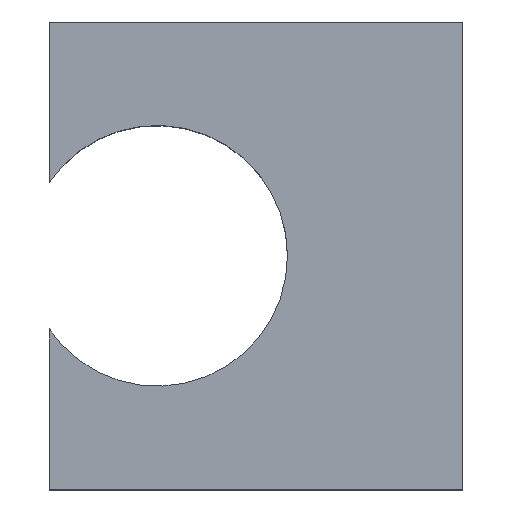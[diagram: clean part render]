
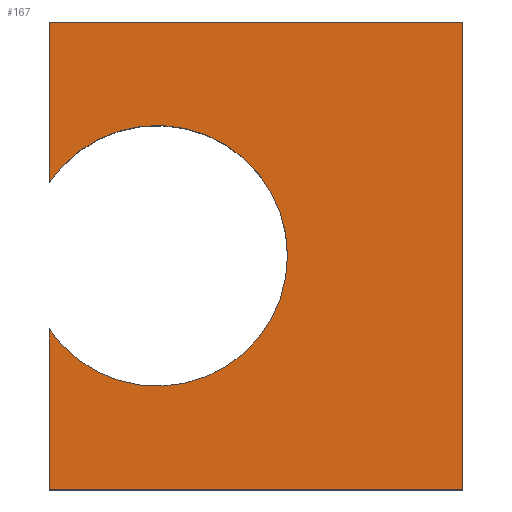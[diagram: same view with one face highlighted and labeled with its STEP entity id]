
A CAD part, top view. The second image highlights one B-rep face of the part: STEP entity #167.
In plain terms, the highlighted planar face has unit normal (0, 0, 1).
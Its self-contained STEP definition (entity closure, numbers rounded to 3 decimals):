
#21 = EDGE_CURVE('',#22,#24,#26,.T.);
#22 = VERTEX_POINT('',#23);
#23 = CARTESIAN_POINT('',(-34.6,-58.6,-17.2));
#24 = VERTEX_POINT('',#25);
#25 = CARTESIAN_POINT('',(-34.6,-56.814,-17.2));
#26 = SURFACE_CURVE('',#27,(#31,#43),.PCURVE_S1.);
#27 = LINE('',#28,#29);
#28 = CARTESIAN_POINT('',(-34.6,-58.6,-17.2));
#29 = VECTOR('',#30,1.);
#30 = DIRECTION('',(-0.,1.,0.));
#31 = PCURVE('',#32,#37);
#32 = PLANE('',#33);
#33 = AXIS2_PLACEMENT_3D('',#34,#35,#36);
#34 = CARTESIAN_POINT('',(-34.6,-58.6,-20.));
#35 = DIRECTION('',(1.,0.,-0.));
#36 = DIRECTION('',(0.,0.,1.));
#37 = DEFINITIONAL_REPRESENTATION('',(#38),#42);
#38 = LINE('',#39,#40);
#39 = CARTESIAN_POINT('',(2.8,0.));
#40 = VECTOR('',#41,1.);
#41 = DIRECTION('',(0.,-1.));
#42 = ( GEOMETRIC_REPRESENTATION_CONTEXT(2) 
PARAMETRIC_REPRESENTATION_CONTEXT() REPRESENTATION_CONTEXT('2D SPACE',''
  ) );
#43 = PCURVE('',#44,#49);
#44 = PLANE('',#45);
#45 = AXIS2_PLACEMENT_3D('',#46,#47,#48);
#46 = CARTESIAN_POINT('',(-34.6,-58.6,-17.2));
#47 = DIRECTION('',(0.,0.,1.));
#48 = DIRECTION('',(1.,0.,-0.));
#49 = DEFINITIONAL_REPRESENTATION('',(#50),#54);
#50 = LINE('',#51,#52);
#51 = CARTESIAN_POINT('',(0.,0.));
#52 = VECTOR('',#53,1.);
#53 = DIRECTION('',(0.,1.));
#54 = ( GEOMETRIC_REPRESENTATION_CONTEXT(2) 
PARAMETRIC_REPRESENTATION_CONTEXT() REPRESENTATION_CONTEXT('2D SPACE',''
  ) );
#72 = PLANE('',#73);
#73 = AXIS2_PLACEMENT_3D('',#74,#75,#76);
#74 = CARTESIAN_POINT('',(-34.6,-58.6,-20.));
#75 = DIRECTION('',(-0.,1.,0.));
#76 = DIRECTION('',(0.,0.,1.));
#157 = CYLINDRICAL_SURFACE('',#158,1.45);
#158 = AXIS2_PLACEMENT_3D('',#159,#160,#161);
#159 = CARTESIAN_POINT('',(-33.4,-56.,-20.1));
#160 = DIRECTION('',(0.,0.,1.));
#161 = DIRECTION('',(1.,0.,-0.));
#167 = ADVANCED_FACE('',(#168),#44,.T.);
#168 = FACE_BOUND('',#169,.T.);
#169 = EDGE_LOOP('',(#170,#171,#194,#222,#250,#278,#307));
#170 = ORIENTED_EDGE('',*,*,#21,.F.);
#171 = ORIENTED_EDGE('',*,*,#172,.T.);
#172 = EDGE_CURVE('',#22,#173,#175,.T.);
#173 = VERTEX_POINT('',#174);
#174 = CARTESIAN_POINT('',(-30.,-58.6,-17.2));
#175 = SURFACE_CURVE('',#176,(#180,#187),.PCURVE_S1.);
#176 = LINE('',#177,#178);
#177 = CARTESIAN_POINT('',(-34.6,-58.6,-17.2));
#178 = VECTOR('',#179,1.);
#179 = DIRECTION('',(1.,0.,-0.));
#180 = PCURVE('',#44,#181);
#181 = DEFINITIONAL_REPRESENTATION('',(#182),#186);
#182 = LINE('',#183,#184);
#183 = CARTESIAN_POINT('',(0.,0.));
#184 = VECTOR('',#185,1.);
#185 = DIRECTION('',(1.,0.));
#186 = ( GEOMETRIC_REPRESENTATION_CONTEXT(2) 
PARAMETRIC_REPRESENTATION_CONTEXT() REPRESENTATION_CONTEXT('2D SPACE',''
  ) );
#187 = PCURVE('',#72,#188);
#188 = DEFINITIONAL_REPRESENTATION('',(#189),#193);
#189 = LINE('',#190,#191);
#190 = CARTESIAN_POINT('',(2.8,0.));
#191 = VECTOR('',#192,1.);
#192 = DIRECTION('',(0.,1.));
#193 = ( GEOMETRIC_REPRESENTATION_CONTEXT(2) 
PARAMETRIC_REPRESENTATION_CONTEXT() REPRESENTATION_CONTEXT('2D SPACE',''
  ) );
#194 = ORIENTED_EDGE('',*,*,#195,.T.);
#195 = EDGE_CURVE('',#173,#196,#198,.T.);
#196 = VERTEX_POINT('',#197);
#197 = CARTESIAN_POINT('',(-30.,-53.4,-17.2));
#198 = SURFACE_CURVE('',#199,(#203,#210),.PCURVE_S1.);
#199 = LINE('',#200,#201);
#200 = CARTESIAN_POINT('',(-30.,-58.6,-17.2));
#201 = VECTOR('',#202,1.);
#202 = DIRECTION('',(-0.,1.,0.));
#203 = PCURVE('',#44,#204);
#204 = DEFINITIONAL_REPRESENTATION('',(#205),#209);
#205 = LINE('',#206,#207);
#206 = CARTESIAN_POINT('',(4.6,0.));
#207 = VECTOR('',#208,1.);
#208 = DIRECTION('',(0.,1.));
#209 = ( GEOMETRIC_REPRESENTATION_CONTEXT(2) 
PARAMETRIC_REPRESENTATION_CONTEXT() REPRESENTATION_CONTEXT('2D SPACE',''
  ) );
#210 = PCURVE('',#211,#216);
#211 = PLANE('',#212);
#212 = AXIS2_PLACEMENT_3D('',#213,#214,#215);
#213 = CARTESIAN_POINT('',(-30.,-58.6,-20.));
#214 = DIRECTION('',(1.,0.,-0.));
#215 = DIRECTION('',(0.,0.,1.));
#216 = DEFINITIONAL_REPRESENTATION('',(#217),#221);
#217 = LINE('',#218,#219);
#218 = CARTESIAN_POINT('',(2.8,0.));
#219 = VECTOR('',#220,1.);
#220 = DIRECTION('',(0.,-1.));
#221 = ( GEOMETRIC_REPRESENTATION_CONTEXT(2) 
PARAMETRIC_REPRESENTATION_CONTEXT() REPRESENTATION_CONTEXT('2D SPACE',''
  ) );
#222 = ORIENTED_EDGE('',*,*,#223,.F.);
#223 = EDGE_CURVE('',#224,#196,#226,.T.);
#224 = VERTEX_POINT('',#225);
#225 = CARTESIAN_POINT('',(-34.6,-53.4,-17.2));
#226 = SURFACE_CURVE('',#227,(#231,#238),.PCURVE_S1.);
#227 = LINE('',#228,#229);
#228 = CARTESIAN_POINT('',(-34.6,-53.4,-17.2));
#229 = VECTOR('',#230,1.);
#230 = DIRECTION('',(1.,0.,-0.));
#231 = PCURVE('',#44,#232);
#232 = DEFINITIONAL_REPRESENTATION('',(#233),#237);
#233 = LINE('',#234,#235);
#234 = CARTESIAN_POINT('',(0.,5.2));
#235 = VECTOR('',#236,1.);
#236 = DIRECTION('',(1.,0.));
#237 = ( GEOMETRIC_REPRESENTATION_CONTEXT(2) 
PARAMETRIC_REPRESENTATION_CONTEXT() REPRESENTATION_CONTEXT('2D SPACE',''
  ) );
#238 = PCURVE('',#239,#244);
#239 = PLANE('',#240);
#240 = AXIS2_PLACEMENT_3D('',#241,#242,#243);
#241 = CARTESIAN_POINT('',(-34.6,-53.4,-20.));
#242 = DIRECTION('',(-0.,1.,0.));
#243 = DIRECTION('',(0.,0.,1.));
#244 = DEFINITIONAL_REPRESENTATION('',(#245),#249);
#245 = LINE('',#246,#247);
#246 = CARTESIAN_POINT('',(2.8,0.));
#247 = VECTOR('',#248,1.);
#248 = DIRECTION('',(0.,1.));
#249 = ( GEOMETRIC_REPRESENTATION_CONTEXT(2) 
PARAMETRIC_REPRESENTATION_CONTEXT() REPRESENTATION_CONTEXT('2D SPACE',''
  ) );
#250 = ORIENTED_EDGE('',*,*,#251,.F.);
#251 = EDGE_CURVE('',#252,#224,#254,.T.);
#252 = VERTEX_POINT('',#253);
#253 = CARTESIAN_POINT('',(-34.6,-55.186,-17.2));
#254 = SURFACE_CURVE('',#255,(#259,#266),.PCURVE_S1.);
#255 = LINE('',#256,#257);
#256 = CARTESIAN_POINT('',(-34.6,-58.6,-17.2));
#257 = VECTOR('',#258,1.);
#258 = DIRECTION('',(-0.,1.,0.));
#259 = PCURVE('',#44,#260);
#260 = DEFINITIONAL_REPRESENTATION('',(#261),#265);
#261 = LINE('',#262,#263);
#262 = CARTESIAN_POINT('',(0.,0.));
#263 = VECTOR('',#264,1.);
#264 = DIRECTION('',(0.,1.));
#265 = ( GEOMETRIC_REPRESENTATION_CONTEXT(2) 
PARAMETRIC_REPRESENTATION_CONTEXT() REPRESENTATION_CONTEXT('2D SPACE',''
  ) );
#266 = PCURVE('',#267,#272);
#267 = PLANE('',#268);
#268 = AXIS2_PLACEMENT_3D('',#269,#270,#271);
#269 = CARTESIAN_POINT('',(-34.6,-58.6,-20.));
#270 = DIRECTION('',(1.,0.,-0.));
#271 = DIRECTION('',(0.,0.,1.));
#272 = DEFINITIONAL_REPRESENTATION('',(#273),#277);
#273 = LINE('',#274,#275);
#274 = CARTESIAN_POINT('',(2.8,0.));
#275 = VECTOR('',#276,1.);
#276 = DIRECTION('',(0.,-1.));
#277 = ( GEOMETRIC_REPRESENTATION_CONTEXT(2) 
PARAMETRIC_REPRESENTATION_CONTEXT() REPRESENTATION_CONTEXT('2D SPACE',''
  ) );
#278 = ORIENTED_EDGE('',*,*,#279,.F.);
#279 = EDGE_CURVE('',#280,#252,#282,.T.);
#280 = VERTEX_POINT('',#281);
#281 = CARTESIAN_POINT('',(-31.95,-56.,-17.2));
#282 = SURFACE_CURVE('',#283,(#288,#295),.PCURVE_S1.);
#283 = CIRCLE('',#284,1.45);
#284 = AXIS2_PLACEMENT_3D('',#285,#286,#287);
#285 = CARTESIAN_POINT('',(-33.4,-56.,-17.2));
#286 = DIRECTION('',(0.,0.,1.));
#287 = DIRECTION('',(1.,0.,-0.));
#288 = PCURVE('',#44,#289);
#289 = DEFINITIONAL_REPRESENTATION('',(#290),#294);
#290 = CIRCLE('',#291,1.45);
#291 = AXIS2_PLACEMENT_2D('',#292,#293);
#292 = CARTESIAN_POINT('',(1.2,2.6));
#293 = DIRECTION('',(1.,0.));
#294 = ( GEOMETRIC_REPRESENTATION_CONTEXT(2) 
PARAMETRIC_REPRESENTATION_CONTEXT() REPRESENTATION_CONTEXT('2D SPACE',''
  ) );
#295 = PCURVE('',#296,#301);
#296 = CYLINDRICAL_SURFACE('',#297,1.45);
#297 = AXIS2_PLACEMENT_3D('',#298,#299,#300);
#298 = CARTESIAN_POINT('',(-33.4,-56.,-20.1));
#299 = DIRECTION('',(0.,0.,1.));
#300 = DIRECTION('',(1.,0.,-0.));
#301 = DEFINITIONAL_REPRESENTATION('',(#302),#306);
#302 = LINE('',#303,#304);
#303 = CARTESIAN_POINT('',(0.,2.9));
#304 = VECTOR('',#305,1.);
#305 = DIRECTION('',(1.,0.));
#306 = ( GEOMETRIC_REPRESENTATION_CONTEXT(2) 
PARAMETRIC_REPRESENTATION_CONTEXT() REPRESENTATION_CONTEXT('2D SPACE',''
  ) );
#307 = ORIENTED_EDGE('',*,*,#308,.F.);
#308 = EDGE_CURVE('',#24,#280,#309,.T.);
#309 = SURFACE_CURVE('',#310,(#315,#322),.PCURVE_S1.);
#310 = CIRCLE('',#311,1.45);
#311 = AXIS2_PLACEMENT_3D('',#312,#313,#314);
#312 = CARTESIAN_POINT('',(-33.4,-56.,-17.2));
#313 = DIRECTION('',(0.,0.,1.));
#314 = DIRECTION('',(1.,0.,-0.));
#315 = PCURVE('',#44,#316);
#316 = DEFINITIONAL_REPRESENTATION('',(#317),#321);
#317 = CIRCLE('',#318,1.45);
#318 = AXIS2_PLACEMENT_2D('',#319,#320);
#319 = CARTESIAN_POINT('',(1.2,2.6));
#320 = DIRECTION('',(1.,0.));
#321 = ( GEOMETRIC_REPRESENTATION_CONTEXT(2) 
PARAMETRIC_REPRESENTATION_CONTEXT() REPRESENTATION_CONTEXT('2D SPACE',''
  ) );
#322 = PCURVE('',#157,#323);
#323 = DEFINITIONAL_REPRESENTATION('',(#324),#328);
#324 = LINE('',#325,#326);
#325 = CARTESIAN_POINT('',(0.,2.9));
#326 = VECTOR('',#327,1.);
#327 = DIRECTION('',(1.,0.));
#328 = ( GEOMETRIC_REPRESENTATION_CONTEXT(2) 
PARAMETRIC_REPRESENTATION_CONTEXT() REPRESENTATION_CONTEXT('2D SPACE',''
  ) );
